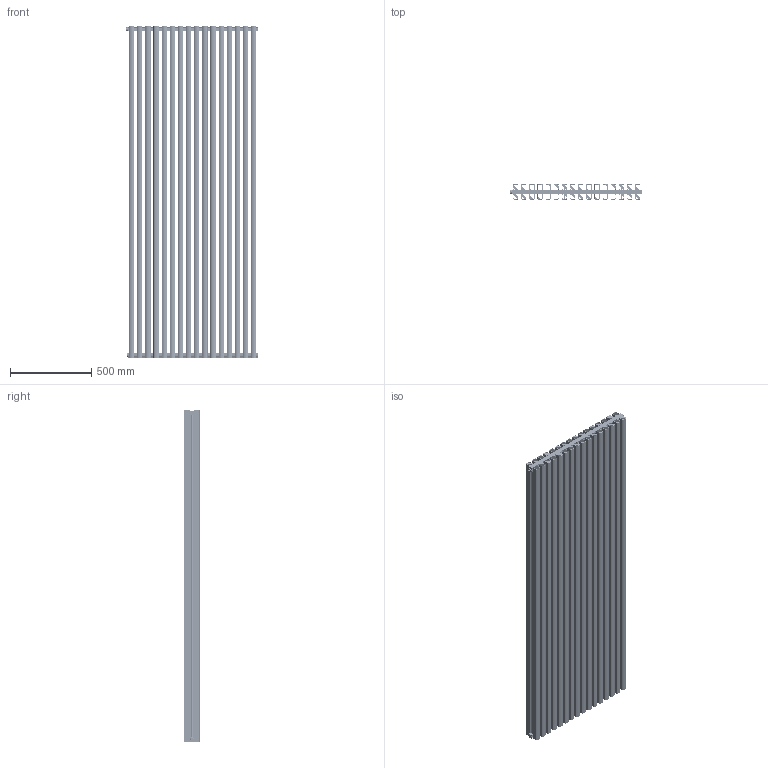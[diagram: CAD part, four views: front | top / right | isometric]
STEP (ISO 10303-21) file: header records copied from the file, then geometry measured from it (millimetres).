
FILE_DESCRIPTION (( 'STEP AP214' ), '1' );
FILE_NAME ('TONALE 2000_16.STEP', '2024-07-22T09:27:07', ( '' ), ( '' ), 'SwSTEP 2.0', 'SolidWorks 2024', '' );
FILE_SCHEMA (( 'AUTOMOTIVE_DESIGN' ));
Length unit declared in the file: millimetre
Products named in the file (12): Art.041; Coperchietto; P3EL00004A_16 elementi; EPC10022D_1000; Assieme vitone con o_ring; O-RING 2,4 D16,3; Art.011; P3EL00004A_16 elementi CS; TONALE 2000_16; ETV600G_foro Ø 4; P3EL00002A_2000
Assembly tree (79 placements, depth 3):
  TONALE 2000_16
    EPC10022D_1000  x16
    Art.011  x3
      Art.011
      Coperchietto
    Art.041
    Art.011  x4
    P3EL00002A_2000  x16
    P3EL00004A_16 elementi CS
    Assieme vitone con o_ring  x32
      ETV600G_foro Ø 4
      O-RING 2,4 D16,3
    P3EL00004A_16 elementi
Bounding box: 816.3 x 95 x 2039.3 mm (x, y, z)
Volume: 19230528 mm3; surface area: 23531145 mm2
Topology: 144 solids, 144 shells, 9296 faces, 25667 edges, 16326 vertices
Faces by surface type: cylinder 3956, plane 3918, cone 892, torus 292, bspline 174, sphere 64
Entity records: 42723 total; most frequent: CARTESIAN_POINT 16570, DIRECTION 5413, ORIENTED_EDGE 5310, EDGE_CURVE 2655, AXIS2_PLACEMENT_3D 1992, VERTEX_POINT 1719, VECTOR 1429, LINE 1429
